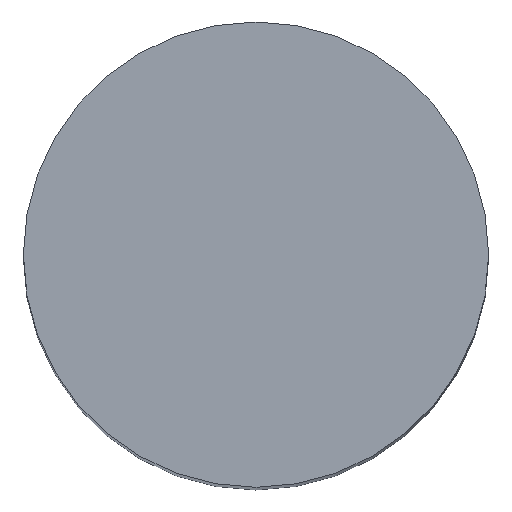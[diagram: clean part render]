
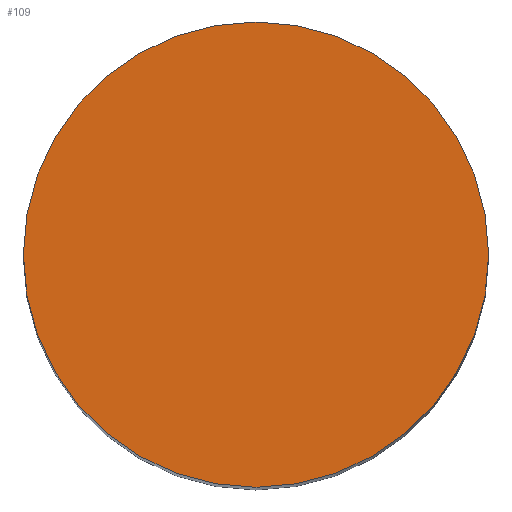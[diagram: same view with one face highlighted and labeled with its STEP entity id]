
A CAD part, top view. The second image highlights one B-rep face of the part: STEP entity #109.
In plain terms, the highlighted planar face has unit normal (0, 0, 1).
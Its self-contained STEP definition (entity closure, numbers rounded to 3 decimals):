
#24 = VERTEX_POINT('',#25);
#25 = CARTESIAN_POINT('',(0.,3.,37.));
#32 = CYLINDRICAL_SURFACE('',#33,3.);
#33 = AXIS2_PLACEMENT_3D('',#34,#35,#36);
#34 = CARTESIAN_POINT('',(0.,0.,16.99));
#35 = DIRECTION('',(-0.,0.,-1.));
#36 = DIRECTION('',(0.,1.,0.));
#51 = EDGE_CURVE('',#24,#24,#52,.T.);
#52 = SURFACE_CURVE('',#53,(#58,#65),.PCURVE_S1.);
#53 = CIRCLE('',#54,3.);
#54 = AXIS2_PLACEMENT_3D('',#55,#56,#57);
#55 = CARTESIAN_POINT('',(0.,0.,37.));
#56 = DIRECTION('',(0.,-0.,1.));
#57 = DIRECTION('',(0.,1.,0.));
#58 = PCURVE('',#32,#59);
#59 = DEFINITIONAL_REPRESENTATION('',(#60),#64);
#60 = LINE('',#61,#62);
#61 = CARTESIAN_POINT('',(-0.,-20.01));
#62 = VECTOR('',#63,1.);
#63 = DIRECTION('',(-1.,0.));
#64 = ( GEOMETRIC_REPRESENTATION_CONTEXT(2) 
PARAMETRIC_REPRESENTATION_CONTEXT() REPRESENTATION_CONTEXT('2D SPACE',''
  ) );
#65 = PCURVE('',#66,#71);
#66 = PLANE('',#67);
#67 = AXIS2_PLACEMENT_3D('',#68,#69,#70);
#68 = CARTESIAN_POINT('',(0.,0.,37.));
#69 = DIRECTION('',(0.,0.,1.));
#70 = DIRECTION('',(1.,0.,-0.));
#71 = DEFINITIONAL_REPRESENTATION('',(#72),#76);
#72 = CIRCLE('',#73,3.);
#73 = AXIS2_PLACEMENT_2D('',#74,#75);
#74 = CARTESIAN_POINT('',(0.,0.));
#75 = DIRECTION('',(0.,1.));
#76 = ( GEOMETRIC_REPRESENTATION_CONTEXT(2) 
PARAMETRIC_REPRESENTATION_CONTEXT() REPRESENTATION_CONTEXT('2D SPACE',''
  ) );
#109 = ADVANCED_FACE('',(#110),#66,.T.);
#110 = FACE_BOUND('',#111,.T.);
#111 = EDGE_LOOP('',(#112));
#112 = ORIENTED_EDGE('',*,*,#51,.T.);
